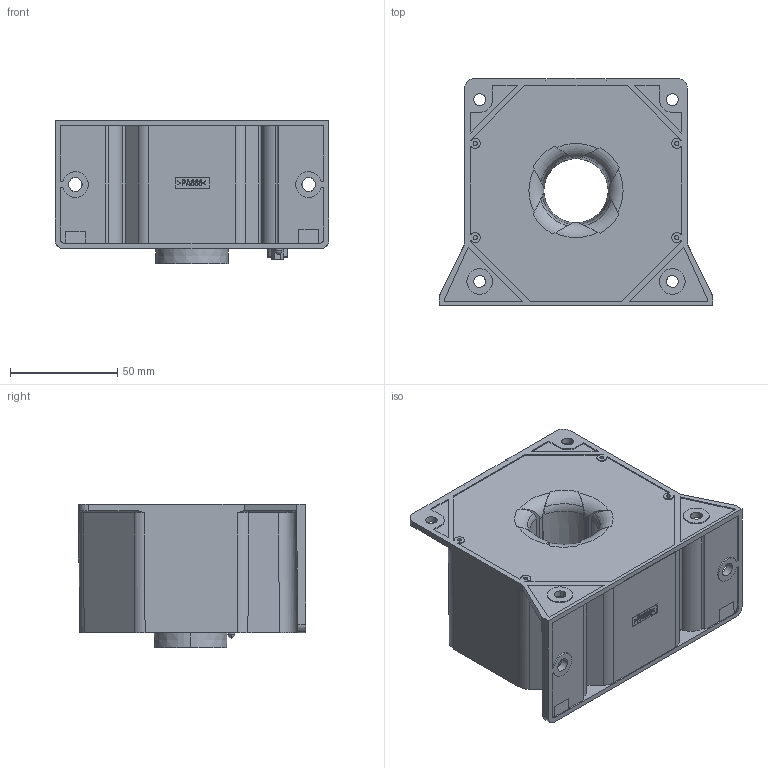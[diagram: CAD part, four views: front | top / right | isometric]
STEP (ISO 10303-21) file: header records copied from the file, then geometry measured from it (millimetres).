
FILE_DESCRIPTION(('Creo Elements/Direct Modeling STEP Export'),'2;1');
FILE_NAME('71.44.52.000.0.stp','2013-09-30T10:40:01',(''),(''),'Creo Elements/Direct Modeling STEP processor for AP214 (Solid Model)','Creo Elements/Direct Modeling 17.0E 05-Feb-2012 (C) Parametric Technology GmbH','');
FILE_SCHEMA(('AUTOMOTIVE_DESIGN { 1 0 10303 214 1 1 1 1 }'));
Length unit declared in the file: millimetre
Products named in the file (1): case_02.1.1
Bounding box: 128 x 106.16 x 67 mm (x, y, z)
Volume: 526046.3 mm3; surface area: 61425.1 mm2
Topology: 1 solids, 13 shells, 919 faces, 2486 edges, 1637 vertices
Faces by surface type: plane 631, cylinder 196, torus 32, bspline 30, cone 18, extrusion 12
Entity records: 39609 total; most frequent: CARTESIAN_POINT 15509, ORIENTED_EDGE 4972, DIRECTION 4285, EDGE_CURVE 2486, VECTOR 1847, LINE 1831, VERTEX_POINT 1637, AXIS2_PLACEMENT_3D 1219
